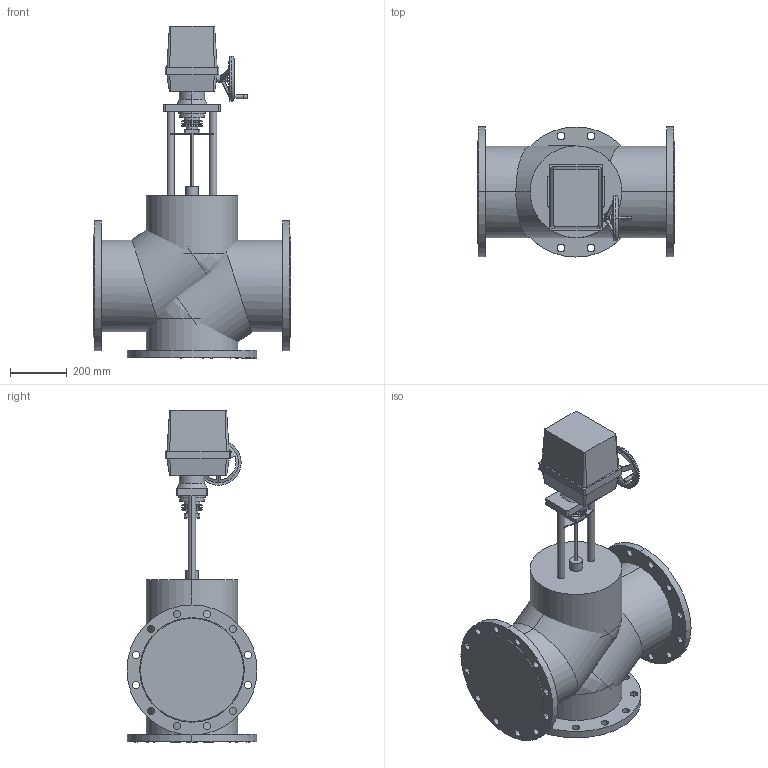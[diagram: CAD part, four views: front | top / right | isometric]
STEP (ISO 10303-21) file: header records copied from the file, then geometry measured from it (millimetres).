
FILE_DESCRIPTION(/* description */ (''),/* implementation_level */ '2;1');
FILE_NAME(/* name */ 'ТРК DN300 PN 1.6 МПа Regada ST2',/* time_stamp */ '2026-07-14T23:15:52+03:00',/* author */ (''),/* organization */ (''),/* preprocessor_version */ 'ST-DEVELOPER v20',/* originating_system */ '',/* authorisation */ '');
FILE_SCHEMA (('AP242_MANAGED_MODEL_BASED_3D_ENGINEERING_MIM_LF { 1 0 10303 442 1 1 4 }'));
Length unit declared in the file: millimetre
Products named in the file (13): TopLevelAssembly; Выдавливание; Модификатор; Модификатор_1; Выдавливание_
1; Выдавливание_
2; Вращение; Выдавливание_
3; Выдавливание_
4; Привод_Regada ST 2; Переход; Объемная геометрия 
присоединена; Объемная геометрия 
присоединена_1
Assembly tree (12 placements, depth 2):
  TopLevelAssembly
    Выдавливание
    Модификатор
    Модификатор_1
    Выдавливание_
1
    Выдавливание_
2
    Вращение
    Выдавливание_
3
    Выдавливание_
4
    Привод_Regada ST 2
    Переход
    Объемная геометрия 
присоединена
    Объемная геометрия 
присоединена_1
Bounding box: 698 x 460 x 1175 mm (x, y, z)
Volume: 139348181.4 mm3; surface area: 4232852.7 mm2
Topology: 27 solids, 27 shells, 317 faces, 725 edges, 450 vertices
Faces by surface type: cylinder 154, plane 103, bspline 56, cone 4
Entity records: 10547 total; most frequent: CARTESIAN_POINT 2627, DIRECTION 1652, ORIENTED_EDGE 1430, EDGE_CURVE 715, AXIS2_PLACEMENT_3D 675, VERTEX_POINT 450, EDGE_LOOP 399, CIRCLE 381
